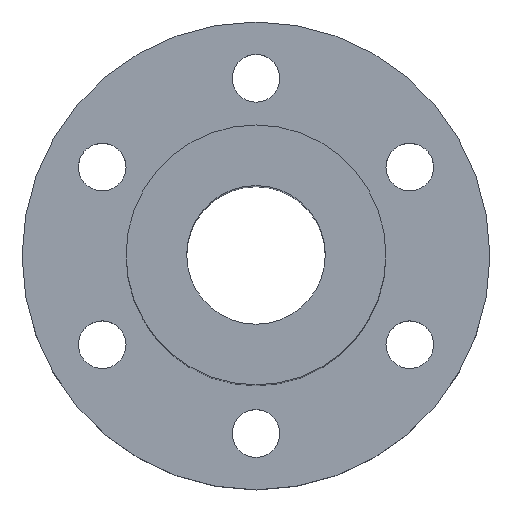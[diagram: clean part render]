
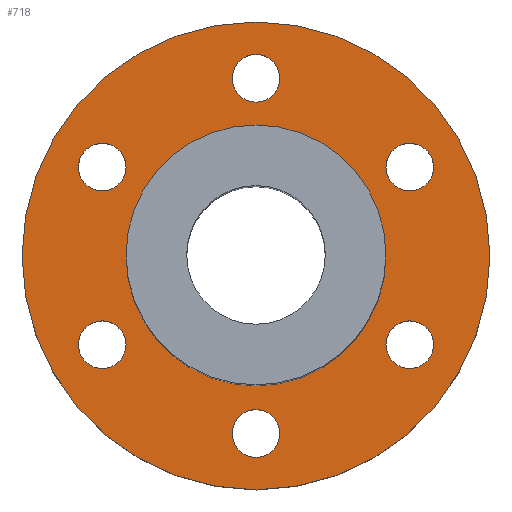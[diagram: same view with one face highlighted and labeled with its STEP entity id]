
A CAD part, top view. The second image highlights one B-rep face of the part: STEP entity #718.
In plain terms, the highlighted planar face has unit normal (0, 0, 1).
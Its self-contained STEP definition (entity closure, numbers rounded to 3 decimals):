
#89=CARTESIAN_POINT('',(0.,0.,12.));
#90=DIRECTION('',(0.,0.,1.));
#91=DIRECTION('',(1.,0.,0.));
#92=AXIS2_PLACEMENT_3D('',#89,#90,#91);
#94=CARTESIAN_POINT('',(0.,0.,12.));
#95=DIRECTION('',(0.,0.,1.));
#96=DIRECTION('',(-1.,0.,0.));
#97=AXIS2_PLACEMENT_3D('',#94,#95,#96);
#99=CARTESIAN_POINT('',(17.754,-10.25,12.));
#100=DIRECTION('',(0.,0.,-1.));
#101=DIRECTION('',(-0.5,-0.866,0.));
#102=AXIS2_PLACEMENT_3D('',#99,#100,#101);
#104=CARTESIAN_POINT('',(17.754,-10.25,12.));
#105=DIRECTION('',(0.,0.,-1.));
#106=DIRECTION('',(0.5,0.866,0.));
#107=AXIS2_PLACEMENT_3D('',#104,#105,#106);
#109=CARTESIAN_POINT('',(-17.754,-10.25,12.));
#110=DIRECTION('',(0.,0.,-1.));
#111=DIRECTION('',(-0.5,0.866,0.));
#112=AXIS2_PLACEMENT_3D('',#109,#110,#111);
#114=CARTESIAN_POINT('',(-17.754,-10.25,12.));
#115=DIRECTION('',(0.,0.,-1.));
#116=DIRECTION('',(0.5,-0.866,0.));
#117=AXIS2_PLACEMENT_3D('',#114,#115,#116);
#119=CARTESIAN_POINT('',(0.,20.5,12.));
#120=DIRECTION('',(0.,0.,-1.));
#121=DIRECTION('',(1.,0.,0.));
#122=AXIS2_PLACEMENT_3D('',#119,#120,#121);
#124=CARTESIAN_POINT('',(0.,20.5,12.));
#125=DIRECTION('',(0.,0.,-1.));
#126=DIRECTION('',(-1.,0.,0.));
#127=AXIS2_PLACEMENT_3D('',#124,#125,#126);
#129=CARTESIAN_POINT('',(0.,0.,12.));
#130=DIRECTION('',(0.,0.,-1.));
#131=DIRECTION('',(1.,0.,0.));
#132=AXIS2_PLACEMENT_3D('',#129,#130,#131);
#134=CARTESIAN_POINT('',(0.,0.,12.));
#135=DIRECTION('',(0.,0.,-1.));
#136=DIRECTION('',(-1.,0.,0.));
#137=AXIS2_PLACEMENT_3D('',#134,#135,#136);
#139=CARTESIAN_POINT('',(-17.754,10.25,12.));
#140=DIRECTION('',(0.,0.,-1.));
#141=DIRECTION('',(0.5,0.866,0.));
#142=AXIS2_PLACEMENT_3D('',#139,#140,#141);
#144=CARTESIAN_POINT('',(-17.754,10.25,12.));
#145=DIRECTION('',(0.,0.,-1.));
#146=DIRECTION('',(-0.5,-0.866,0.));
#147=AXIS2_PLACEMENT_3D('',#144,#145,#146);
#149=CARTESIAN_POINT('',(0.,-20.5,12.));
#150=DIRECTION('',(0.,0.,-1.));
#151=DIRECTION('',(-1.,0.,0.));
#152=AXIS2_PLACEMENT_3D('',#149,#150,#151);
#154=CARTESIAN_POINT('',(0.,-20.5,12.));
#155=DIRECTION('',(0.,0.,-1.));
#156=DIRECTION('',(1.,0.,0.));
#157=AXIS2_PLACEMENT_3D('',#154,#155,#156);
#159=CARTESIAN_POINT('',(17.754,10.25,12.));
#160=DIRECTION('',(0.,0.,-1.));
#161=DIRECTION('',(0.5,-0.866,0.));
#162=AXIS2_PLACEMENT_3D('',#159,#160,#161);
#164=CARTESIAN_POINT('',(17.754,10.25,12.));
#165=DIRECTION('',(0.,0.,-1.));
#166=DIRECTION('',(-0.5,0.866,0.));
#167=AXIS2_PLACEMENT_3D('',#164,#165,#166);
#469=CARTESIAN_POINT('',(-27.,0.,12.));
#471=VERTEX_POINT('',#469);
#473=CARTESIAN_POINT('',(27.,0.,12.));
#475=VERTEX_POINT('',#473);
#477=CARTESIAN_POINT('',(-2.75,20.5,12.));
#479=VERTEX_POINT('',#477);
#481=CARTESIAN_POINT('',(2.75,20.5,12.));
#483=VERTEX_POINT('',#481);
#485=CARTESIAN_POINT('',(-19.129,7.868,12.));
#487=VERTEX_POINT('',#485);
#489=CARTESIAN_POINT('',(-16.379,12.632,12.));
#491=VERTEX_POINT('',#489);
#497=CARTESIAN_POINT('',(-16.379,-12.632,12.));
#499=VERTEX_POINT('',#497);
#501=CARTESIAN_POINT('',(-19.129,-7.868,12.));
#503=VERTEX_POINT('',#501);
#509=CARTESIAN_POINT('',(2.75,-20.5,12.));
#511=VERTEX_POINT('',#509);
#513=CARTESIAN_POINT('',(-2.75,-20.5,12.));
#515=VERTEX_POINT('',#513);
#517=CARTESIAN_POINT('',(19.129,-7.868,12.));
#519=VERTEX_POINT('',#517);
#521=CARTESIAN_POINT('',(16.379,-12.632,12.));
#523=VERTEX_POINT('',#521);
#529=CARTESIAN_POINT('',(16.379,12.632,12.));
#531=VERTEX_POINT('',#529);
#533=CARTESIAN_POINT('',(19.129,7.868,12.));
#535=VERTEX_POINT('',#533);
#590=CARTESIAN_POINT('',(15.,0.,12.));
#592=VERTEX_POINT('',#590);
#594=CARTESIAN_POINT('',(-15.,0.,12.));
#596=VERTEX_POINT('',#594);
#666=CARTESIAN_POINT('',(0.,0.,12.));
#667=DIRECTION('',(0.,0.,1.));
#668=DIRECTION('',(1.,0.,0.));
#669=AXIS2_PLACEMENT_3D('',#666,#667,#668);
#670=PLANE('',#669);
#672=ORIENTED_EDGE('',*,*,#671,.F.);
#673=ORIENTED_EDGE('',*,*,#656,.F.);
#674=EDGE_LOOP('',(#672,#673));
#675=FACE_OUTER_BOUND('',#674,.F.);
#677=ORIENTED_EDGE('',*,*,#676,.F.);
#679=ORIENTED_EDGE('',*,*,#678,.F.);
#680=EDGE_LOOP('',(#677,#679));
#681=FACE_BOUND('',#680,.F.);
#683=ORIENTED_EDGE('',*,*,#682,.F.);
#685=ORIENTED_EDGE('',*,*,#684,.F.);
#686=EDGE_LOOP('',(#683,#685));
#687=FACE_BOUND('',#686,.F.);
#689=ORIENTED_EDGE('',*,*,#688,.F.);
#691=ORIENTED_EDGE('',*,*,#690,.F.);
#692=EDGE_LOOP('',(#689,#691));
#693=FACE_BOUND('',#692,.F.);
#695=ORIENTED_EDGE('',*,*,#694,.F.);
#697=ORIENTED_EDGE('',*,*,#696,.F.);
#698=EDGE_LOOP('',(#695,#697));
#699=FACE_BOUND('',#698,.F.);
#701=ORIENTED_EDGE('',*,*,#700,.F.);
#703=ORIENTED_EDGE('',*,*,#702,.F.);
#704=EDGE_LOOP('',(#701,#703));
#705=FACE_BOUND('',#704,.F.);
#707=ORIENTED_EDGE('',*,*,#706,.F.);
#709=ORIENTED_EDGE('',*,*,#708,.F.);
#710=EDGE_LOOP('',(#707,#709));
#711=FACE_BOUND('',#710,.F.);
#713=ORIENTED_EDGE('',*,*,#712,.F.);
#715=ORIENTED_EDGE('',*,*,#714,.F.);
#716=EDGE_LOOP('',(#713,#715));
#717=FACE_BOUND('',#716,.F.);
#718=ADVANCED_FACE('',(#675,#681,#687,#693,#699,#705,#711,#717),#670,.T.);
#93=CIRCLE('',#92,27.);
#98=CIRCLE('',#97,27.);
#103=CIRCLE('',#102,2.75);
#108=CIRCLE('',#107,2.75);
#113=CIRCLE('',#112,2.75);
#118=CIRCLE('',#117,2.75);
#123=CIRCLE('',#122,2.75);
#128=CIRCLE('',#127,2.75);
#133=CIRCLE('',#132,15.);
#138=CIRCLE('',#137,15.);
#143=CIRCLE('',#142,2.75);
#148=CIRCLE('',#147,2.75);
#153=CIRCLE('',#152,2.75);
#158=CIRCLE('',#157,2.75);
#163=CIRCLE('',#162,2.75);
#168=CIRCLE('',#167,2.75);
#656=EDGE_CURVE('',#471,#475,#98,.T.);
#671=EDGE_CURVE('',#475,#471,#93,.T.);
#676=EDGE_CURVE('',#523,#519,#103,.T.);
#678=EDGE_CURVE('',#519,#523,#108,.T.);
#682=EDGE_CURVE('',#503,#499,#113,.T.);
#684=EDGE_CURVE('',#499,#503,#118,.T.);
#688=EDGE_CURVE('',#483,#479,#123,.T.);
#690=EDGE_CURVE('',#479,#483,#128,.T.);
#694=EDGE_CURVE('',#592,#596,#133,.T.);
#696=EDGE_CURVE('',#596,#592,#138,.T.);
#700=EDGE_CURVE('',#491,#487,#143,.T.);
#702=EDGE_CURVE('',#487,#491,#148,.T.);
#706=EDGE_CURVE('',#515,#511,#153,.T.);
#708=EDGE_CURVE('',#511,#515,#158,.T.);
#712=EDGE_CURVE('',#535,#531,#163,.T.);
#714=EDGE_CURVE('',#531,#535,#168,.T.);
